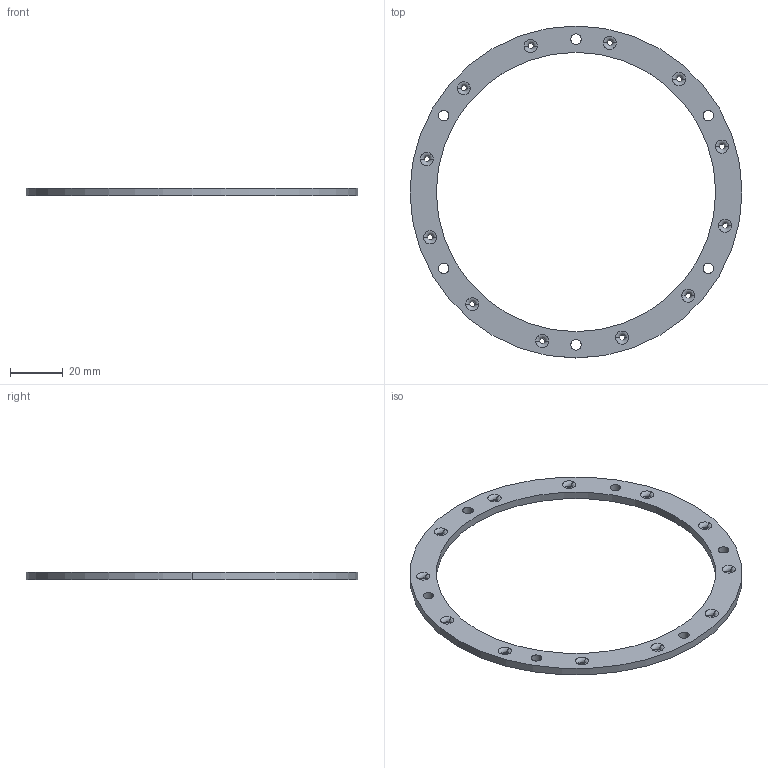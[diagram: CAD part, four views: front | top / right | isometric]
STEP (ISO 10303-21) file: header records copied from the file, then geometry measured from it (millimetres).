
FILE_DESCRIPTION (( 'STEP AP214' ), '1' );
FILE_NAME ('絳盄啣.STEP', '2025-07-28T06:23:38', ( '' ), ( '' ), 'SwSTEP 2.0', 'SolidWorks 2025', '' );
FILE_SCHEMA (( 'AUTOMOTIVE_DESIGN' ));
Length unit declared in the file: millimetre
Products named in the file (1): 导线板
Bounding box: 126 x 126 x 3 mm (x, y, z)
Volume: 10496.2 mm3; surface area: 9628.2 mm2
Topology: 1 solids, 1 shells, 66 faces, 168 edges, 104 vertices
Faces by surface type: torus 48, cylinder 16, plane 2
Entity records: 2171 total; most frequent: DIRECTION 454, CARTESIAN_POINT 339, ORIENTED_EDGE 336, AXIS2_PLACEMENT_3D 219, EDGE_CURVE 168, CIRCLE 152, VERTEX_POINT 104, EDGE_LOOP 104
